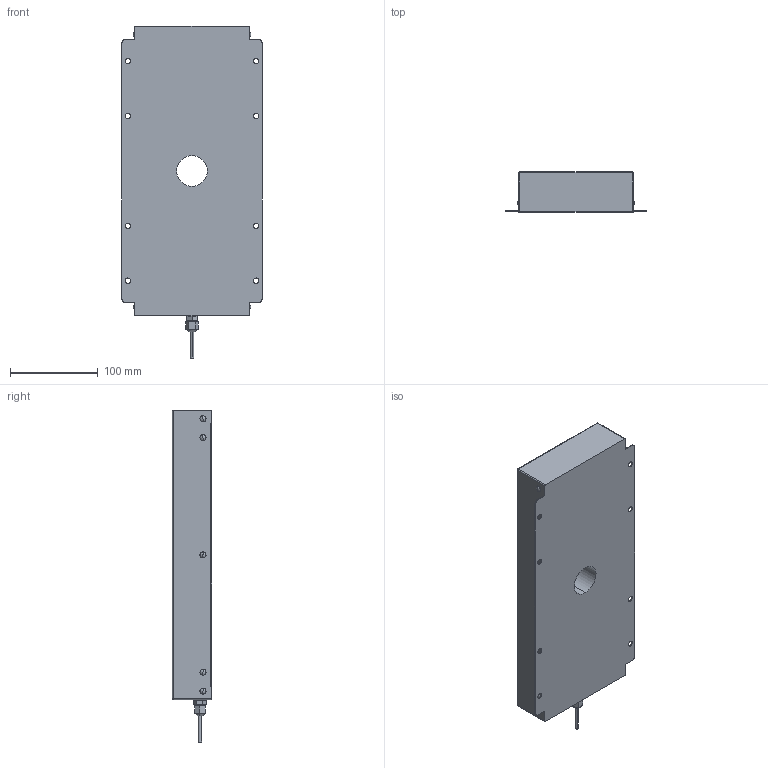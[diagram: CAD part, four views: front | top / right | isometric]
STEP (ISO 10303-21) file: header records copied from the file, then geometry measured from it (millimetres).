
FILE_DESCRIPTION (( 'STEP AP203' ), '1' );
FILE_NAME ('HDSBPA-300x100_-24-35D.STEP', '2023-04-18T06:15:27', ( '' ), ( '' ), 'SwSTEP 2.0', 'SolidWorks 2022', '' );
FILE_SCHEMA (( 'CONFIG_CONTROL_DESIGN' ));
Length unit declared in the file: millimetre
Products named in the file (1): HDSBPA-300x100_-24-35D
Bounding box: 160 x 45 x 378 mm (x, y, z)
Volume: 1869450.6 mm3; surface area: 149387.1 mm2
Topology: 1 solids, 1 shells, 130 faces, 346 edges, 210 vertices
Faces by surface type: cylinder 56, plane 48, sphere 24, torus 2
Entity records: 3937 total; most frequent: DIRECTION 734, CARTESIAN_POINT 643, ORIENTED_EDGE 624, EDGE_CURVE 312, AXIS2_PLACEMENT_3D 291, VERTEX_POINT 200, EDGE_LOOP 164, CIRCLE 160
